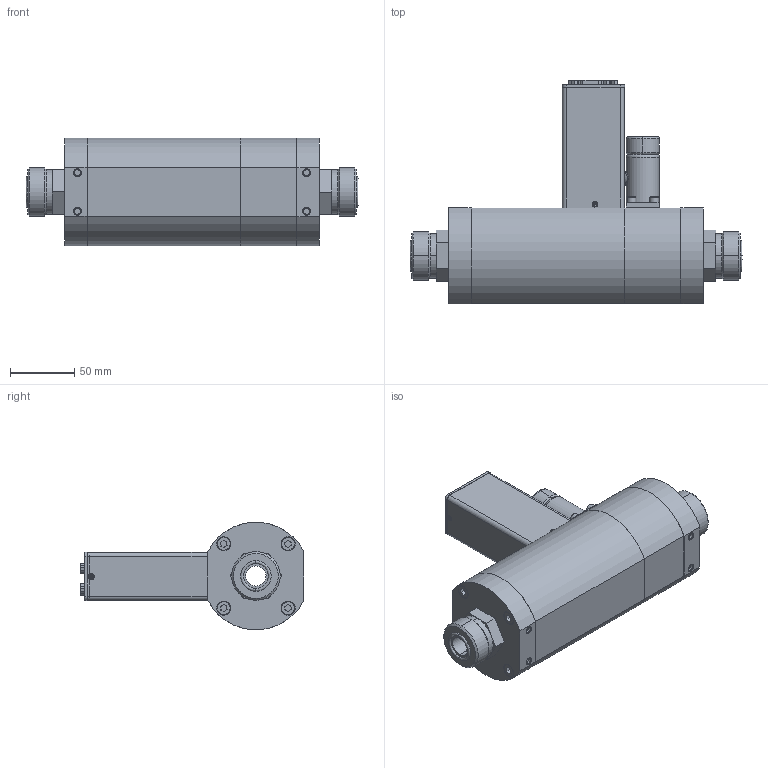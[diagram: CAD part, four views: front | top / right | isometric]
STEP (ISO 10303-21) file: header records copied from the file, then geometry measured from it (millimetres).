
FILE_DESCRIPTION (( 'STEP AP203' ), '1' );
FILE_NAME ('SLA5853-1-2L-2-A-REVB.STEP', '2022-04-08T19:18:16', ( '' ), ( '' ), 'SwSTEP 2.0', 'SolidWorks 2020', '' );
FILE_SCHEMA (( 'CONFIG_CONTROL_DESIGN' ));
Length unit declared in the file: inch
Products named in the file (1): SLA5853-1-2L-2-A-REVB
Bounding box: 259.09 x 174.57 x 83.73 mm (x, y, z)
Volume: 280677.8 mm3; surface area: 199424.3 mm2
Topology: 43 solids, 43 shells, 1915 faces, 4933 edges, 3177 vertices
Faces by surface type: plane 938, cylinder 579, cone 262, bspline 136
Entity records: 63874 total; most frequent: CARTESIAN_POINT 16568, DIRECTION 9843, ORIENTED_EDGE 9826, EDGE_CURVE 4913, AXIS2_PLACEMENT_3D 3484, VERTEX_POINT 3177, LINE 2875, VECTOR 2875
